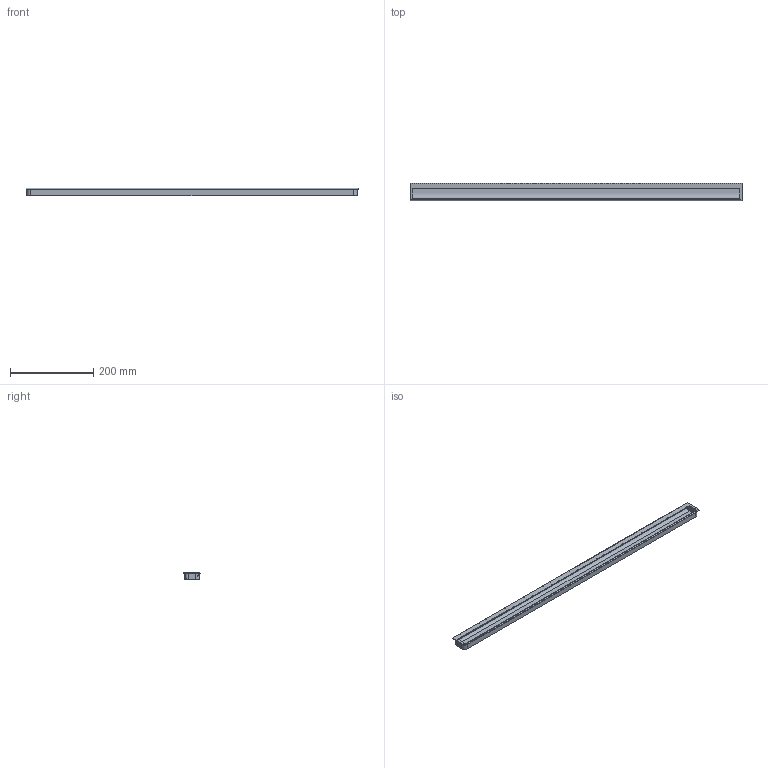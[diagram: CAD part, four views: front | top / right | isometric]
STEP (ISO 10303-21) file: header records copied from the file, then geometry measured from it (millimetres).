
FILE_DESCRIPTION( ( '' ), '1' );
FILE_NAME( 'D:/temp/hettich_stp/hettich/prodecor_handles/new_modern/115310.stp', '2013-02-26T12:42:12', ( '' ), ( '' ), ' ', ' ', ' ' );
FILE_SCHEMA( ( 'automotive_design' ) );
Length unit declared in the file: millimetre
Products named in the file (1): 1
Bounding box: 800 x 43 x 17.5 mm (x, y, z)
Volume: 178788.6 mm3; surface area: 128458.3 mm2
Topology: 1 solids, 1 shells, 48 faces, 127 edges, 84 vertices
Faces by surface type: plane 27, cylinder 21
Entity records: 2966 total; most frequent: DIRECTION 273, STYLED_ITEM 260, PRESENTATION_STYLE_ASSIGNMENT 260, CARTESIAN_POINT 260, COLOUR_RGB 260, ORIENTED_EDGE 254, EDGE_CURVE 127, CURVE_STYLE 127
